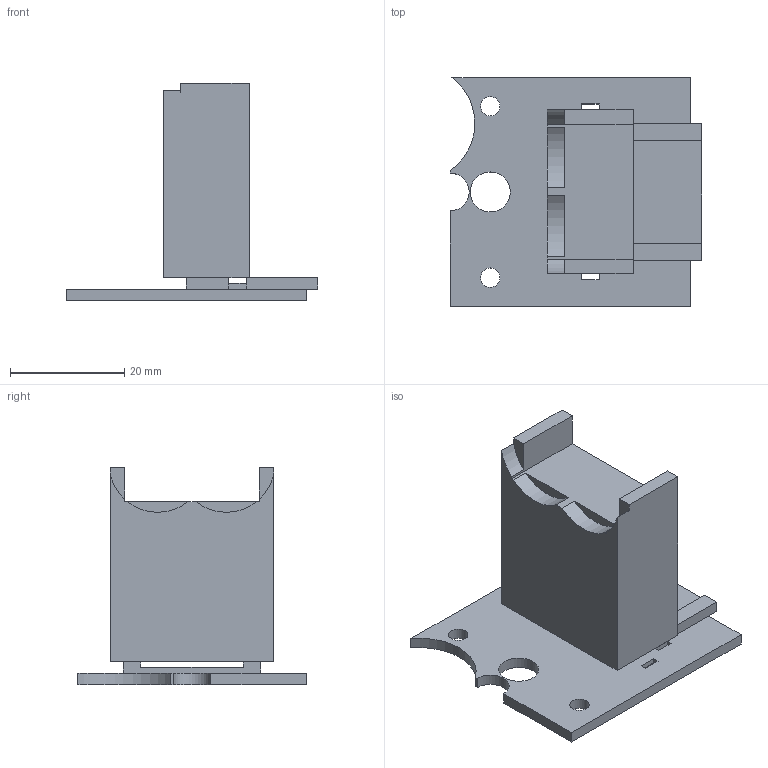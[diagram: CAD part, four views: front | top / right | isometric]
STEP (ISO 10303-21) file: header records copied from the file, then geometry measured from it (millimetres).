
FILE_DESCRIPTION(('FreeCAD Model'),'2;1');
FILE_NAME('Open CASCADE Shape Model','2026-10-23T15:45:24',('FreeCAD'),( 'FreeCAD'),'Open CASCADE STEP processor 7.8','FreeCAD','Unknown');
FILE_SCHEMA(('AUTOMOTIVE_DESIGN { 1 0 10303 214 1 1 1 1 }'));
Length unit declared in the file: millimetre
Products named in the file (1): Open CASCADE STEP translator 7.8 5
Bounding box: 44 x 40 x 38 mm (x, y, z)
Volume: 15970.4 mm3; surface area: 7546 mm2
Topology: 1 solids, 1 shells, 65 faces, 202 edges, 134 vertices
Faces by surface type: plane 56, cylinder 9
Full cylindrical faces by diameter (mm): 3.4 x2, 7 x1
Entity records: 2272 total; most frequent: ORIENTED_EDGE 404, CARTESIAN_POINT 402, DIRECTION 356, EDGE_CURVE 202, LINE 180, VECTOR 180, VERTEX_POINT 134, AXIS2_PLACEMENT_3D 88
